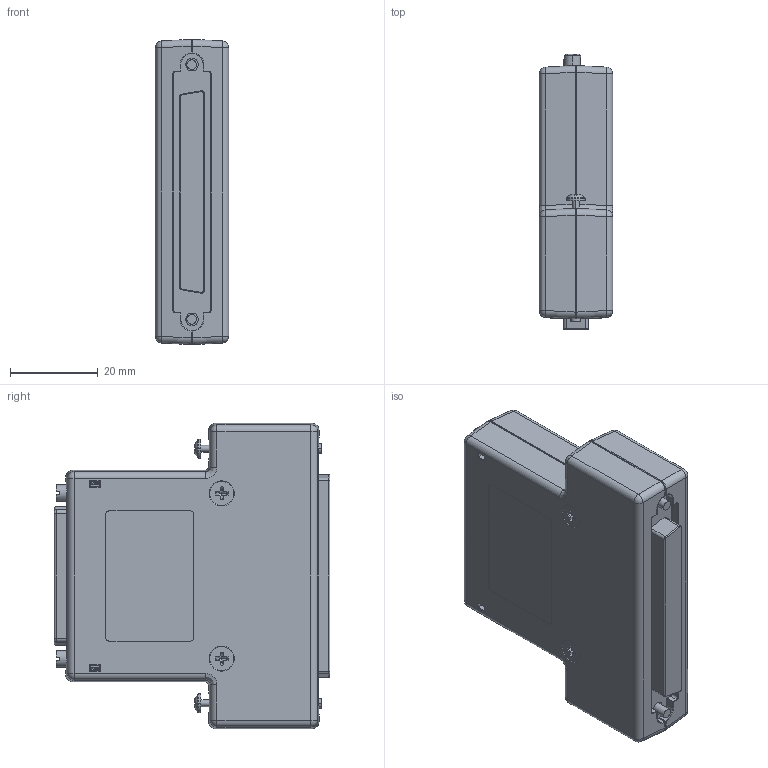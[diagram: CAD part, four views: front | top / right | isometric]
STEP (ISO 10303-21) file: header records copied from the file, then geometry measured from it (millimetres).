
FILE_DESCRIPTION((''),'2;1');
FILE_NAME('CU_653X_CABLE_ADAPTER','2007-08-02T',('lmcdanie'),(''),'PRO/ENGINEER BY PARAMETRIC TECHNOLOGY CORPORATION, 2006080','PRO/ENGINEER BY PARAMETRIC TECHNOLOGY CORPORATION, 2006080','');
FILE_SCHEMA(('CONFIG_CONTROL_DESIGN'));
Products named in the file (1): CU_653X_CABLE_ADAPTER
Bounding box: 16.69 x 62.72 x 69.43 mm (x, y, z)
Volume: 21583 mm3; surface area: 26039.3 mm2
Topology: 8 solids, 8 shells, 4161 faces, 10962 edges, 6896 vertices
Faces by surface type: plane 2887, cylinder 784, bspline 288, sphere 90, cone 52, extrusion 36, torus 24
Entity records: 145895 total; most frequent: CARTESIAN_POINT 44440, ORIENTED_EDGE 21780, DIRECTION 19316, EDGE_CURVE 10890, VECTOR 8790, LINE 8754, VERTEX_POINT 7010, AXIS2_PLACEMENT_3D 5263
